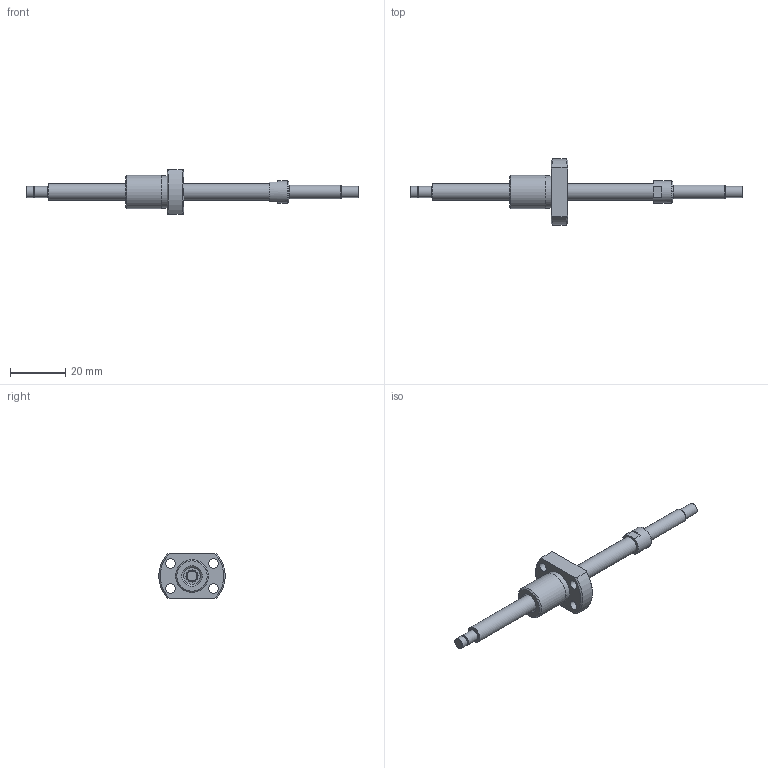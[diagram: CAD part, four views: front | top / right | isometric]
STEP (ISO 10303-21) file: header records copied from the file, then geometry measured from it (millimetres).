
FILE_DESCRIPTION(/* description */ ('STEP AP214'),/* implementation_level */ '2;1');
FILE_NAME(/* name */ 'NSGF0602Z-077R120C3-0-T-S-T-B-(28-S)',/* time_stamp */ '2026-08-24T20:05:02+02:00',/* author */ ('License CC BY-ND 4.0'),/* organization */ ('CADENAS'),/* preprocessor_version */ 'ST-DEVELOPER v20',/* originating_system */ 'PARTsolutions',/* authorisation */ ' ');
FILE_SCHEMA (('AUTOMOTIVE_DESIGN {1 0 10303 214 3 1 1}'));
Length unit declared in the file: millimetre
Products named in the file (3): NSGF0602Z-077R120C3-0-T-S-T-B-(28-S); NSG0602Z-77R120_(T-S_T-B_2)_2; NSGF0602Z-1
Assembly tree (2 placements, depth 2):
  NSGF0602Z-077R120C3-0-T-S-T-B-(28-S)
    NSG0602Z-77R120_(T-S_T-B_2)_2
    NSGF0602Z-1
Bounding box: 120 x 23.92 x 16 mm (x, y, z)
Volume: 5925.4 mm3; surface area: 4487.7 mm2
Topology: 2 solids, 2 shells, 47 faces, 98 edges, 64 vertices
Faces by surface type: plane 19, cylinder 17, cone 9, torus 2
Full cylindrical faces by diameter (mm): 3.4 x4, 3.7 x1, 4 x3, 5 x1, 6 x2, 8 x1, 10 x1, 11.7 x1, 12 x1
Entity records: 1225 total; most frequent: DIRECTION 212, CARTESIAN_POINT 206, ORIENTED_EDGE 144, AXIS2_PLACEMENT_3D 98, EDGE_LOOP 88, FACE_BOUND 88, EDGE_CURVE 72, VERTEX_POINT 60
